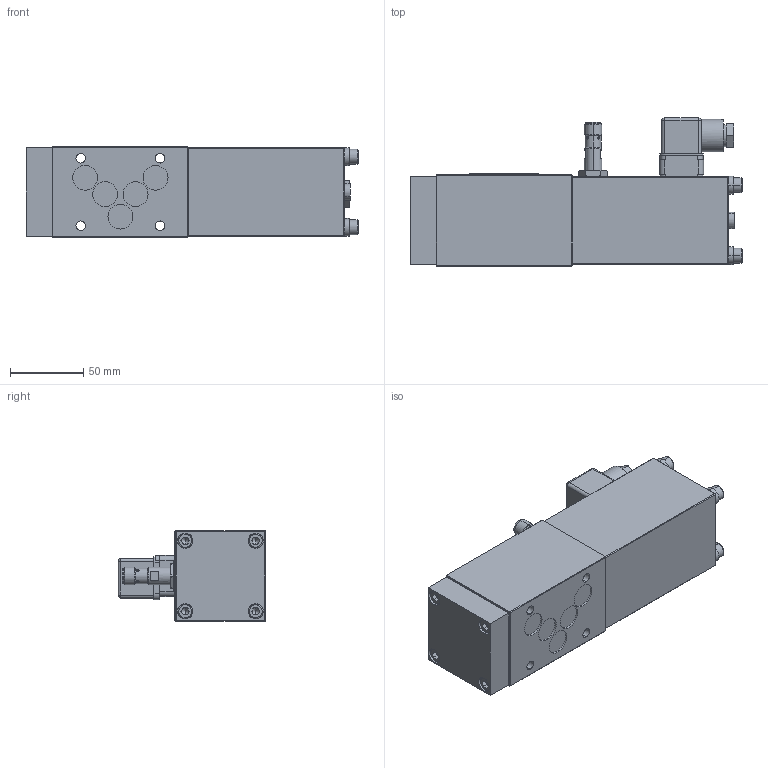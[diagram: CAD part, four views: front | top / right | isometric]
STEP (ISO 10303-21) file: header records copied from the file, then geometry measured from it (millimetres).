
FILE_DESCRIPTION (( 'STEP AP214' ), '1' );
FILE_NAME ('A.32100b-P1b.STEP', '2022-09-23T12:14:31', ( '' ), ( '' ), 'SwSTEP 2.0', 'SolidWorks 2020', '' );
FILE_SCHEMA (( 'AUTOMOTIVE_DESIGN' ));
Length unit declared in the file: millimetre
Products named in the file (1): A.32100b-P1b
Bounding box: 226.2 x 100.8 x 62 mm (x, y, z)
Volume: 835571.5 mm3; surface area: 77578.2 mm2
Topology: 1 solids, 1 shells, 513 faces, 1201 edges, 730 vertices
Faces by surface type: plane 309, cylinder 116, cone 38, bspline 34, torus 16
Entity records: 21111 total; most frequent: CARTESIAN_POINT 3979, DIRECTION 2426, ORIENTED_EDGE 2358, EDGE_CURVE 1179, AXIS2_PLACEMENT_3D 845, VECTOR 736, LINE 736, VERTEX_POINT 730
